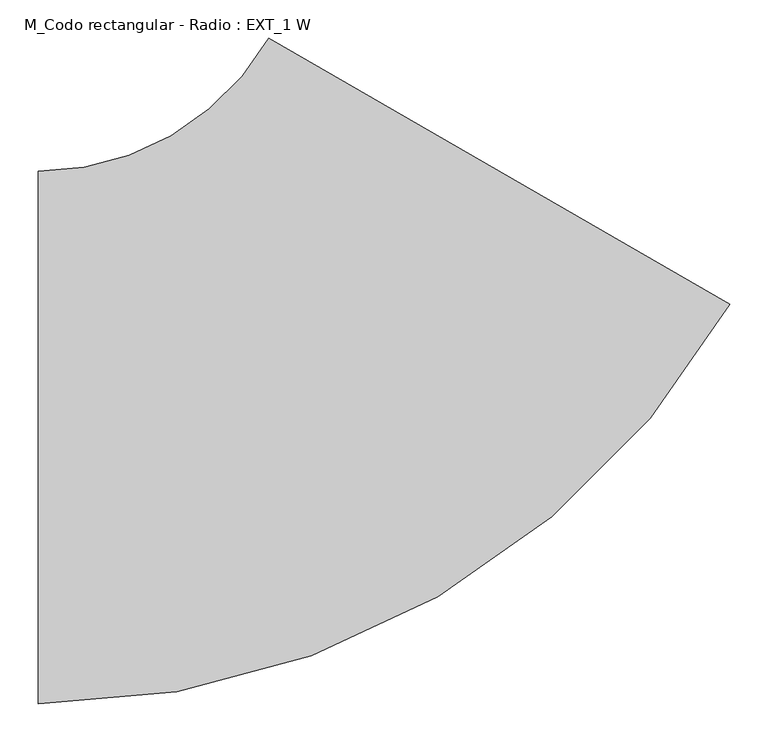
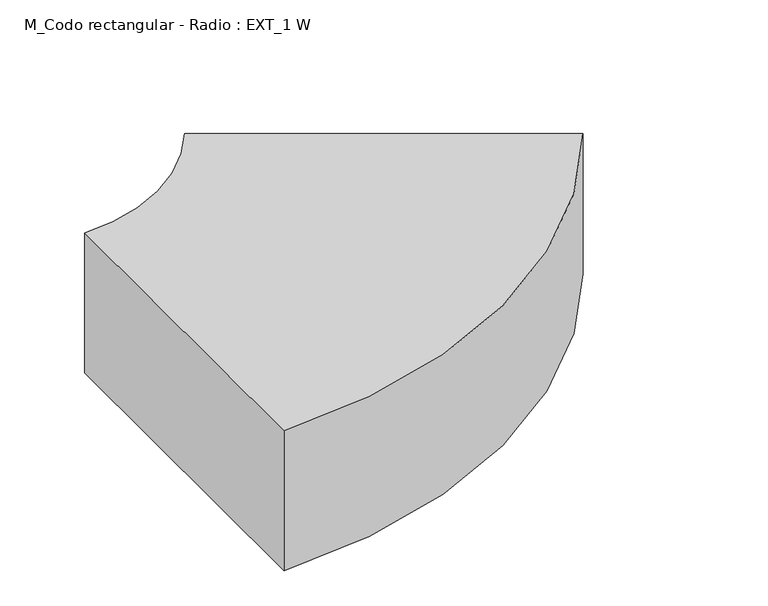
"""IFC4 building model written with IfcOpenShell, lengths in millimetres: duct fitting geometry, M_Codo rectangular - Radio : EXT_1 W."""

from ifc_helpers import new_model, si_unit, point, frame, frame_2d, origin, place, context, project, spatial, polyline, circle_curve, trimmed, segment, composite_curve, outline, extrude, source, transform, mapped, element, save


def m_codo_rectangular_radio_ext_1_w_cd563b56(model_context):
    return source(origin(), model_context, "Body", "SweptSolid", [
        extrude(outline(composite_curve([segment(trimmed(circle_curve(frame_2d((-404.2190633, 700.0)), 1050.0), [point((505.1907047, 175.1439494))], [point((-404.2190633, -350.0))], False, "CARTESIAN"), True, "CONTINUOUS"), segment(polyline([(-404.2190633, -350.0), (-404.2190633, 350.0)]), True, "CONTINUOUS"), segment(trimmed(circle_curve(frame_2d((-404.2190633, 700.0)), 350.0), [point((-404.2190633, 350.0))], [point((-101.082474, 525.0479831))], True, "CARTESIAN"), True, "CONTINUOUS"), segment(polyline([(-101.082474, 525.0479831), (505.1907047, 175.1439494)]), True, "CONTINUOUS")], self_intersect=False)), frame((0.0, 0.0, -150.0), z_axis=(0.0, 0.0, 1.0), x_axis=(1.0, 0.0, 0.0)), (0.0, 0.0, 1.0), 300.0),
    ])


if __name__ == "__main__":
    model = new_model("IFC4")
    model_context = context("Model", 3, world=origin())
    ifc_project = project(units=[si_unit("LENGTHUNIT", "METRE", prefix="MILLI")], contexts=[model_context])
    site = spatial("IfcSite", under=ifc_project)
    building = spatial("IfcBuilding", under=site)
    placement = place(None, origin())
    m_codo_rectangular_radio_ext_1_w_shape = m_codo_rectangular_radio_ext_1_w_cd563b56(model_context)
    element("IfcDuctFitting", 1, ObjectType="M_Codo rectangular - Radio : EXT_1 W", at=placement, inside=building, context=model_context, shape_type="MappedRepresentation", body=[
        mapped(m_codo_rectangular_radio_ext_1_w_shape, transform((0.0, 0.0, 0.0), x_axis=(1.0, 0.0, 0.0), y_axis=(0.0, 1.0, 0.0), z_axis=(0.0, 0.0, 1.0))),
    ])
    save(model, "model.ifc")
